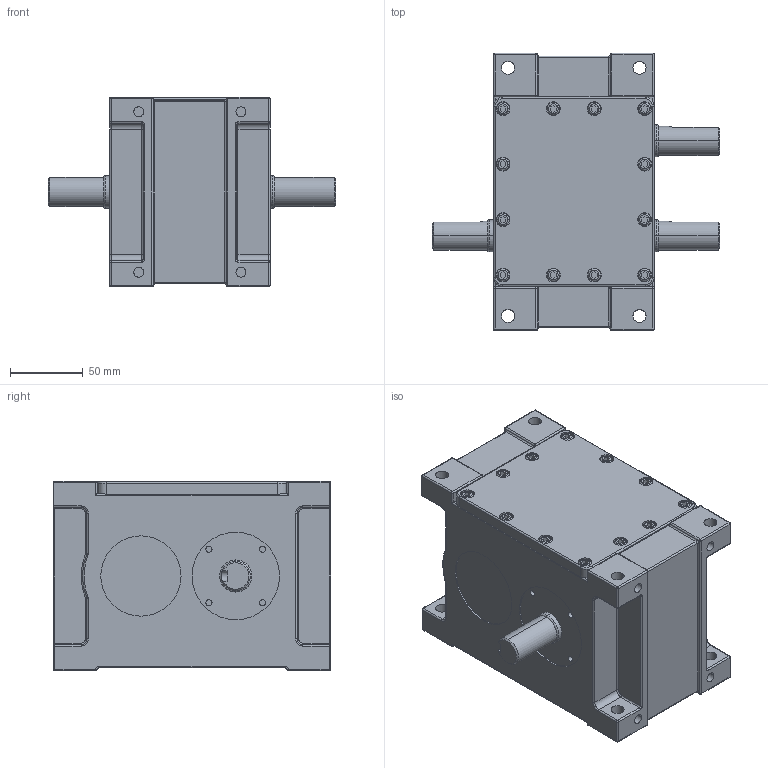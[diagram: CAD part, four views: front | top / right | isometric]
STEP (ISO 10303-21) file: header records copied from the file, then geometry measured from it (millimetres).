
FILE_DESCRIPTION((''),'2;1');
FILE_NAME('P65','2015-01-16T',('松仔'),(''),'PRO/ENGINEER BY PARAMETRIC TECHNOLOGY CORPORATION, 2013430','PRO/ENGINEER BY PARAMETRIC TECHNOLOGY CORPORATION, 2013430','');
FILE_SCHEMA(('CONFIG_CONTROL_DESIGN'));
Length unit declared in the file: millimetre
Products named in the file (1): P65
Bounding box: 197 x 190 x 130 mm (x, y, z)
Volume: 2463684 mm3; surface area: 145936 mm2
Topology: 2 solids, 2 shells, 570 faces, 1264 edges, 756 vertices
Faces by surface type: cylinder 250, plane 193, torus 80, sphere 40, bspline 4, cone 3
Entity records: 16023 total; most frequent: CARTESIAN_POINT 2998, DIRECTION 2952, ORIENTED_EDGE 2528, EDGE_CURVE 1264, AXIS2_PLACEMENT_3D 1163, VERTEX_POINT 756, EDGE_LOOP 644, VECTOR 626
